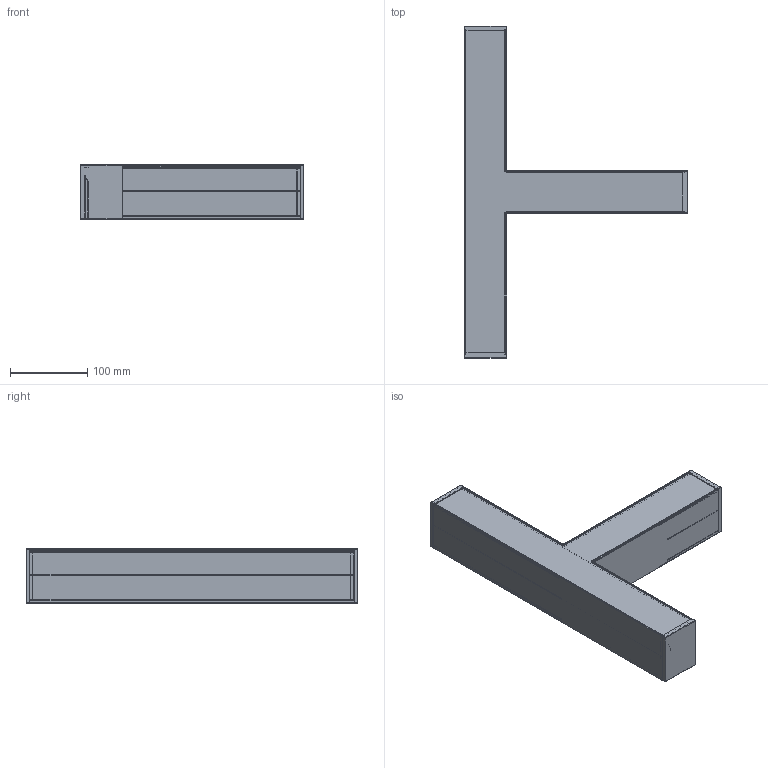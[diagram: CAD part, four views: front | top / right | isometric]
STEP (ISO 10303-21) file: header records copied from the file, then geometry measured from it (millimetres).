
FILE_DESCRIPTION((''),'2;1');
FILE_NAME('T_ASM','2025-12-14T20:03:40',('86186'),(''),'CREO PARAMETRIC BY PTC INC, 2019010','CREO PARAMETRIC BY PTC INC, 2019010','');
FILE_SCHEMA(('CONFIG_CONTROL_DESIGN'));
Length unit declared in the file: millimetre
Products named in the file (9): 420; 557011_19000; 557000; PRT0013; PRT0011; PRT0012; 23; PRT0015; T_ASM
Assembly tree (14 placements, depth 2):
  T_ASM
    420
    557011_19000  x3
    557000  x3
    PRT0013  x3
    PRT0011
    PRT0012
    23
    PRT0015
Bounding box: 289.33 x 428.85 x 70 mm (x, y, z)
Volume: 304265.5 mm3; surface area: 594152.6 mm2
Topology: 15 solids, 21 shells, 1509 faces, 4398 edges, 2903 vertices
Faces by surface type: cylinder 770, plane 685, cone 36, sphere 12, extrusion 6
Entity records: 34495 total; most frequent: CARTESIAN_POINT 7153, ORIENTED_EDGE 5840, DIRECTION 5781, EDGE_CURVE 2920, AXIS2_PLACEMENT_3D 2061, VERTEX_POINT 1939, VECTOR 1659, LINE 1657
